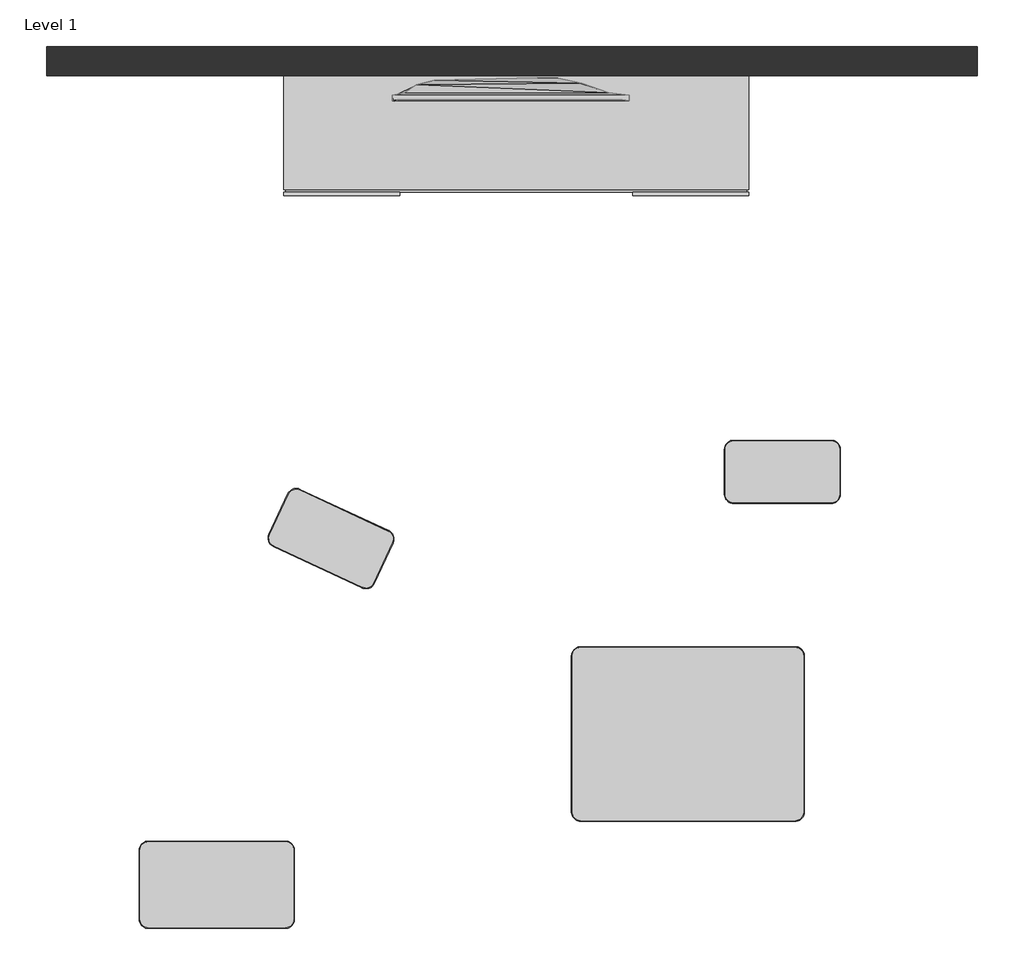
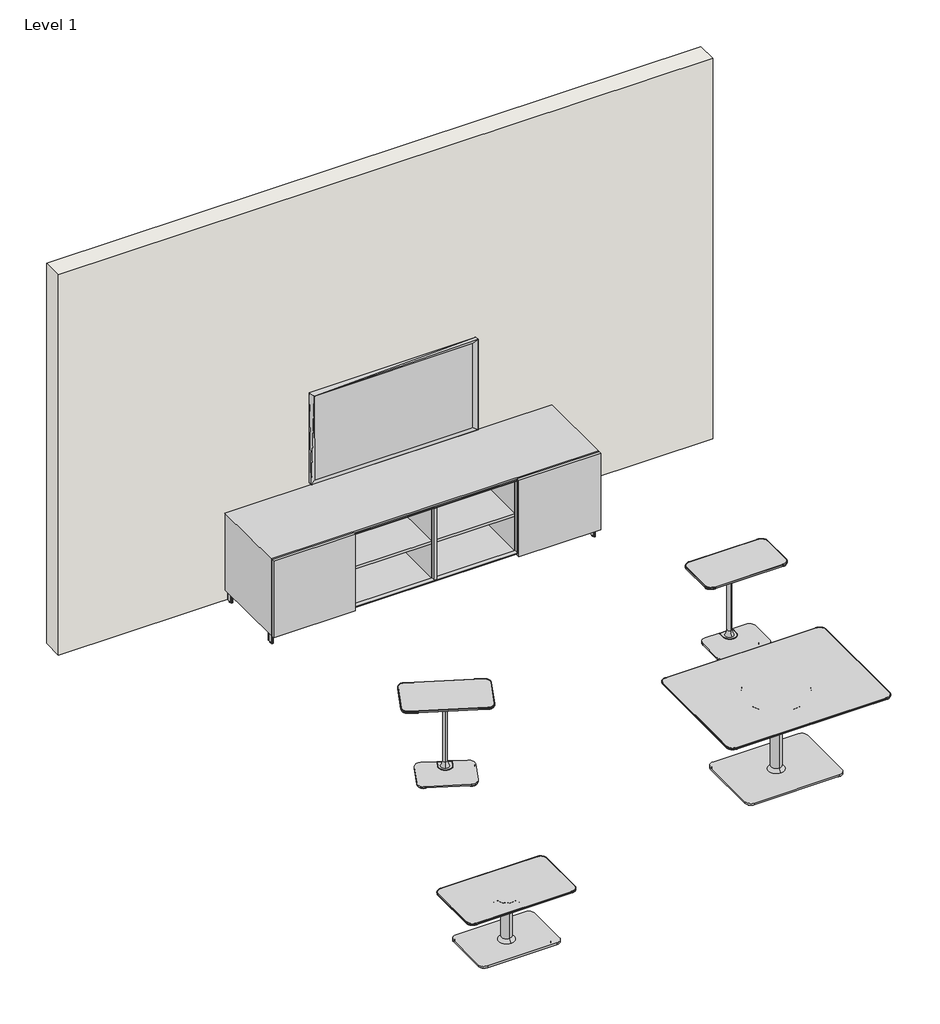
# One storey, incomplete: 6 furniture elements, 1 wall.
"""IFC4 building model written with IfcOpenShell, lengths in millimetres."""

from ifc_helpers import new_model, si_unit, origin, origin_with_axes, place, context, project, spatial, polyline, outline, extrude, transform, mapped, element, save
from components import furniture_d2e51079, furniture_39884a35, furniture_957b4211, partial_open_96w_metal_base_f76c5528, wall_mount_screen_visual_only_2_65ec691a

model = new_model("IFC4")

# Units and contexts
model_context = context("Model", 3, world=origin())
ifc_project = project(units=[si_unit("LENGTHUNIT", "METRE", prefix="MILLI")], contexts=[model_context])

# Site, building, storey
site = spatial("IfcSite", under=ifc_project)
building = spatial("IfcBuilding", under=site)
storey = spatial("IfcBuildingStorey", under=building, Name="Level 1", Elevation=0.0)

# Furniture
placement = place(None, origin())
furniture_shape = furniture_d2e51079(model_context)
element("IfcFurniture", 1, ObjectType="Steelcase Coalesse - Lagunitas - Table - Personal (3) : 13D x 24W", at=placement, inside=storey, context=model_context, shape_type="MappedRepresentation", body=[
    mapped(furniture_shape, transform((-37244.6873546, -191365.0251394, 0.0), x_axis=(1.0000000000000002, 0.0, 0.0), y_axis=(0.0, 1.0000000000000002, 0.0), z_axis=(0.0, 0.0, 1.0))),
])
element("IfcFurniture", 2, ObjectType="Steelcase Coalesse - Lagunitas - Table - Personal (3) : 13D x 24W", at=placement, inside=storey, context=model_context, shape_type="MappedRepresentation", body=[
    mapped(furniture_shape, transform((-39609.2580196, -191714.6352273, 0.0), x_axis=(0.906240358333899, -0.4227628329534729, 0.0), y_axis=(0.4227628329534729, 0.906240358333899, 0.0), z_axis=(0.0, 0.0, 1.0))),
])
furniture_2_shape = furniture_39884a35(model_context)
element("IfcFurniture", 3, ObjectType="Steelcase Coalesse - Lagunitas - Table - Work : 26H x 36D x 48W", at=placement, inside=storey, context=model_context, shape_type="MappedRepresentation", body=[
    mapped(furniture_2_shape, transform((-37740.0761881, -192738.9116681, 0.0), x_axis=(1.0, 0.0, 0.0), y_axis=(0.0, 1.0, 0.0), z_axis=(0.0, 0.0, 1.0))),
])
furniture_3_shape = furniture_957b4211(model_context)
element("IfcFurniture", 4, ObjectType="Steelcase Coalesse - Lagunitas - Table - Occasional (1) : 18D x 32W", at=placement, inside=storey, context=model_context, shape_type="MappedRepresentation", body=[
    mapped(furniture_3_shape, transform((-40207.2673063, -193529.1665021, 0.0), x_axis=(1.0, 0.0, 0.0), y_axis=(0.0, 1.0, 0.0), z_axis=(0.0, 0.0, 1.0))),
])
partial_open_96w_metal_base_shape = partial_open_96w_metal_base_f76c5528(model_context)
element("IfcFurniture", 5, ObjectType="Steelcase Coalesse - Exponents - Storage - Credenza - 27H (1) : Partial Open - 96W - Metal Base", at=placement, inside=storey, context=model_context, shape_type="MappedRepresentation", body=[
    mapped(partial_open_96w_metal_base_shape, transform((-39857.9122883, -189916.8991119, 0.0), x_axis=(1.0, 0.0, 0.0), y_axis=(0.0, 1.0, 0.0), z_axis=(0.0, 0.0, 1.0))),
])
wall_mount_screen_visual_only_2_shape = wall_mount_screen_visual_only_2_65ec691a(model_context)
element("IfcFurniture", 6, ObjectType="Wall-Mount Screen (Visual Only) 2 : 1.242 m x 0.102 m", at=placement, inside=storey, context=model_context, shape_type="MappedRepresentation", body=[
    mapped(wall_mount_screen_visual_only_2_shape, transform((-38667.287361, -189399.5500863, 533.4), x_axis=(1.0, 0.0, 0.0), y_axis=(0.0, 1.0, 0.0), z_axis=(0.0, 0.0, 1.0))),
])

# Wall
element("IfcWall", 7, ObjectType="6in", at=placement, inside=storey, context=model_context, shape_type="SweptSolid", body=[
    extrude(outline(polyline([(-36222.5641425, -189288.2493293), (-41099.3641425, -189288.2493293), (-41099.3641425, -189135.8493293), (-36222.5641425, -189135.8493293), (-36222.5641425, -189288.2493293)])), origin_with_axes(), (0.0, 0.0, 1.0), 2997.2),
])

save(model, "model.ifc")
